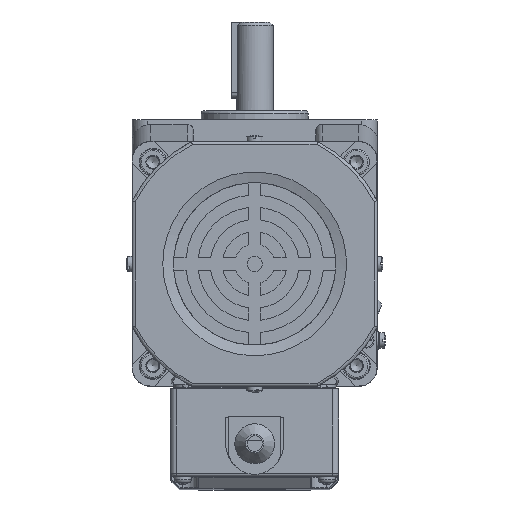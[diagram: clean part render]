
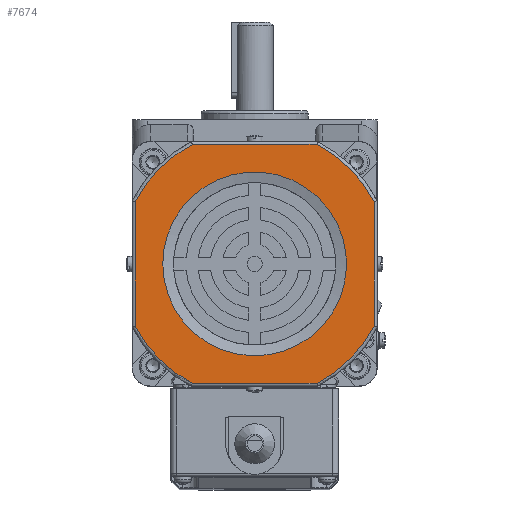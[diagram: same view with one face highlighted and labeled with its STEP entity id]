
A CAD part, left-side view. The second image highlights one B-rep face of the part: STEP entity #7674.
In plain terms, the highlighted planar face has unit normal (-1, 0, 0).
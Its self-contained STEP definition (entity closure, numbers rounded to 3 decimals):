
#4036=LINE('',#42554,#5867);
#4037=LINE('',#42559,#5868);
#4038=LINE('',#42563,#5869);
#4039=LINE('',#42567,#5870);
#5867=VECTOR('',#33796,1.);
#5868=VECTOR('',#33799,1.);
#5869=VECTOR('',#33802,1.);
#5870=VECTOR('',#33805,1.);
#7674=ADVANCED_FACE('',(#9912,#9913),#9174,.F.);
#9174=PLANE('',#29723);
#9912=FACE_BOUND('',#10845,.T.);
#9913=FACE_BOUND('',#10846,.T.);
#10845=EDGE_LOOP('',(#14170));
#10846=EDGE_LOOP('',(#14171,#14172,#14173,#14174,#14175,#14176,#14177,#14178));
#14170=ORIENTED_EDGE('',*,*,#24279,.T.);
#14171=ORIENTED_EDGE('',*,*,#24280,.T.);
#14172=ORIENTED_EDGE('',*,*,#24281,.T.);
#14173=ORIENTED_EDGE('',*,*,#24282,.T.);
#14174=ORIENTED_EDGE('',*,*,#24283,.T.);
#14175=ORIENTED_EDGE('',*,*,#24284,.T.);
#14176=ORIENTED_EDGE('',*,*,#24285,.T.);
#14177=ORIENTED_EDGE('',*,*,#24286,.T.);
#14178=ORIENTED_EDGE('',*,*,#24287,.T.);
#21271=VERTEX_POINT('',#42553);
#21272=VERTEX_POINT('',#42555);
#21273=VERTEX_POINT('',#42556);
#21274=VERTEX_POINT('',#42558);
#21275=VERTEX_POINT('',#42560);
#21276=VERTEX_POINT('',#42562);
#21277=VERTEX_POINT('',#42564);
#21278=VERTEX_POINT('',#42566);
#21279=VERTEX_POINT('',#42568);
#24279=EDGE_CURVE('',#21271,#21271,#27961,.T.);
#24280=EDGE_CURVE('',#21272,#21273,#4036,.T.);
#24281=EDGE_CURVE('',#21273,#21274,#27962,.T.);
#24282=EDGE_CURVE('',#21274,#21275,#4037,.T.);
#24283=EDGE_CURVE('',#21275,#21276,#27963,.T.);
#24284=EDGE_CURVE('',#21276,#21277,#4038,.T.);
#24285=EDGE_CURVE('',#21277,#21278,#27964,.T.);
#24286=EDGE_CURVE('',#21278,#21279,#4039,.T.);
#24287=EDGE_CURVE('',#21279,#21272,#27965,.T.);
#27961=CIRCLE('',#29718,30.);
#27962=CIRCLE('',#29719,44.);
#27963=CIRCLE('',#29720,44.);
#27964=CIRCLE('',#29721,44.);
#27965=CIRCLE('',#29722,44.);
#29718=AXIS2_PLACEMENT_3D('',#42552,#33794,#33795);
#29719=AXIS2_PLACEMENT_3D('',#42557,#33797,#33798);
#29720=AXIS2_PLACEMENT_3D('',#42561,#33800,#33801);
#29721=AXIS2_PLACEMENT_3D('',#42565,#33803,#33804);
#29722=AXIS2_PLACEMENT_3D('',#42569,#33806,#33807);
#29723=AXIS2_PLACEMENT_3D('',#42570,#33808,#33809);
#33794=DIRECTION('',(1.,0.,0.));
#33795=DIRECTION('',(0.,1.,0.));
#33796=DIRECTION('',(0.,1.,0.));
#33797=DIRECTION('',(-1.,0.,0.));
#33798=DIRECTION('',(0.,0.,-1.));
#33799=DIRECTION('',(0.,0.,-1.));
#33800=DIRECTION('',(-1.,0.,0.));
#33801=DIRECTION('',(0.,0.,-1.));
#33802=DIRECTION('',(0.,-1.,0.));
#33803=DIRECTION('',(-1.,0.,0.));
#33804=DIRECTION('',(0.,0.,-1.));
#33805=DIRECTION('',(0.,0.,1.));
#33806=DIRECTION('',(-1.,0.,0.));
#33807=DIRECTION('',(0.,0.,-1.));
#33808=DIRECTION('',(1.,0.,0.));
#33809=DIRECTION('',(0.,0.,-1.));
#42552=CARTESIAN_POINT('',(-102.,40.,40.));
#42553=CARTESIAN_POINT('',(-102.,70.,40.));
#42554=CARTESIAN_POINT('',(-102.,60.616,79.));
#42555=CARTESIAN_POINT('',(-102.,19.628,79.));
#42556=CARTESIAN_POINT('',(-102.,60.372,79.));
#42557=CARTESIAN_POINT('',(-102.,40.,40.));
#42558=CARTESIAN_POINT('',(-102.,79.,60.372));
#42559=CARTESIAN_POINT('',(-102.,79.,19.384));
#42560=CARTESIAN_POINT('',(-102.,79.,19.628));
#42561=CARTESIAN_POINT('',(-102.,40.,40.));
#42562=CARTESIAN_POINT('',(-102.,60.372,1.));
#42563=CARTESIAN_POINT('',(-102.,19.384,1.));
#42564=CARTESIAN_POINT('',(-102.,19.628,1.));
#42565=CARTESIAN_POINT('',(-102.,40.,40.));
#42566=CARTESIAN_POINT('',(-102.,1.,19.628));
#42567=CARTESIAN_POINT('',(-102.,1.,60.616));
#42568=CARTESIAN_POINT('',(-102.,1.,60.372));
#42569=CARTESIAN_POINT('',(-102.,40.,40.));
#42570=CARTESIAN_POINT('',(-102.,40.,40.));
